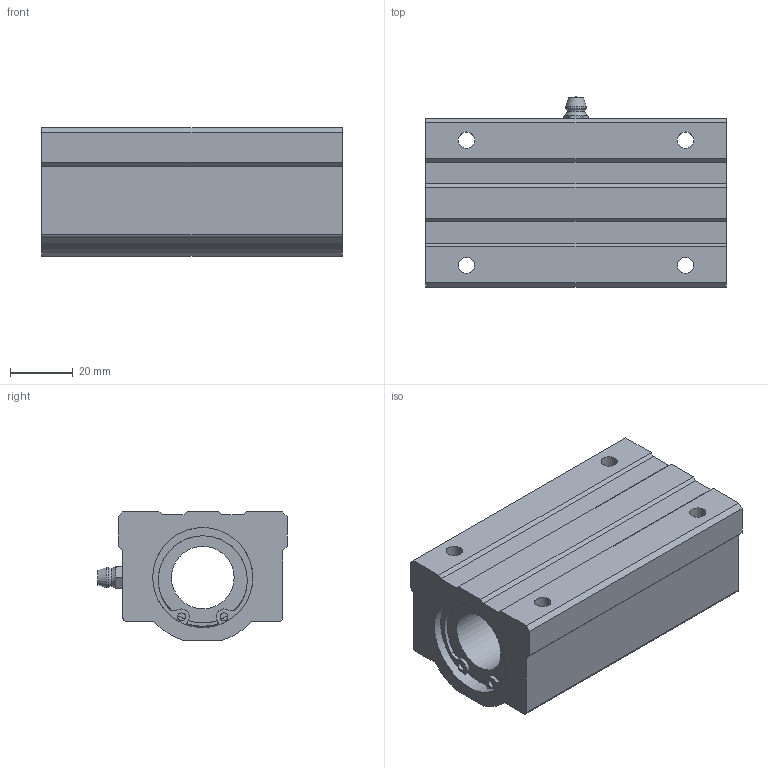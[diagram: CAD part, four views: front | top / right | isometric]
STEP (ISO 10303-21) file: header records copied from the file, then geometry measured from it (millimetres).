
FILE_DESCRIPTION((''),'2;1');
FILE_NAME('D:\製品 (図面)\カタログ用3D\リニアベアリング関連\STEP形式\LHW-B\LHW20B.stp','2010-05-21T10:50:12',('Tsuchiya'),(''),'Autodesk Inventor 10','Autodesk Inventor 10','');
FILE_SCHEMA(('AUTOMOTIVE_DESIGN { 1 0 10303 214 1 1 1 1 }'));
Length unit declared in the file: millimetre
Products named in the file (1): LHW20B
Bounding box: 96 x 60.9 x 41 mm (x, y, z)
Volume: 149594.5 mm3; surface area: 33533.5 mm2
Topology: 1 solids, 7 shells, 126 faces, 317 edges, 201 vertices
Faces by surface type: plane 50, bspline 40, cylinder 25, cone 7, torus 2, sphere 2
Full cylindrical faces by diameter (mm): 2.5 x2, 20 x2, 29 x2, 30.3 x2, 32 x8
Entity records: 3817 total; most frequent: CARTESIAN_POINT 1077, DIRECTION 554, ORIENTED_EDGE 512, EDGE_CURVE 256, AXIS2_PLACEMENT_3D 223, EDGE_LOOP 196, VERTEX_POINT 180, CIRCLE 136
